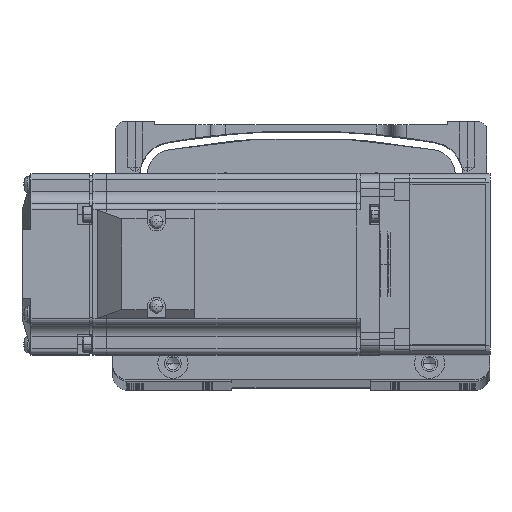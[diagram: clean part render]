
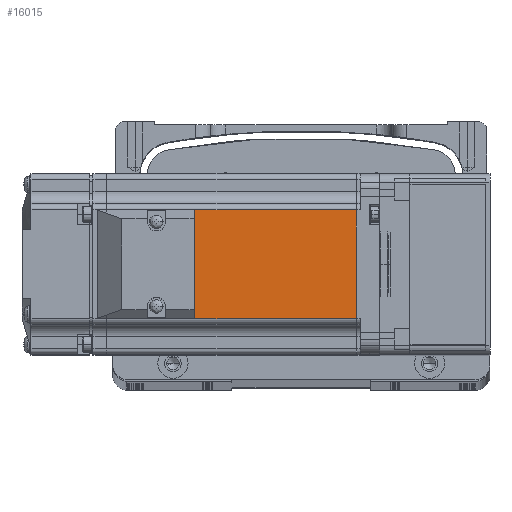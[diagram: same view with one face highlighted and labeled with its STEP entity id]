
A CAD part, top view. The second image highlights one B-rep face of the part: STEP entity #16015.
In plain terms, the highlighted planar face has unit normal (0, 0, 1) as drawn and (0, 1, 0) by its records, which use the part's own axes.
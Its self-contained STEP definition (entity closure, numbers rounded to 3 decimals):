
#335 = PLANE ( 'NONE',  #20621 ) ;
#621 = DIRECTION ( 'NONE',  ( 0., 0., 1. ) ) ;
#9788 = EDGE_CURVE ( 'NONE', #80756, #51555, #56795, .T. ) ;
#14954 = DIRECTION ( 'NONE',  ( 0., 0., 1. ) ) ;
#15821 = FACE_OUTER_BOUND ( 'NONE', #30516, .T. ) ;
#16015 = ADVANCED_FACE ( 'NONE', ( #15821 ), #335, .T. ) ;
#18471 = ORIENTED_EDGE ( 'NONE', *, *, #82268, .T. ) ;
#18538 = DIRECTION ( 'NONE',  ( 1., 0., 0. ) ) ;
#20621 = AXIS2_PLACEMENT_3D ( 'NONE', #81254, #40855, #621 ) ;
#21502 = CARTESIAN_POINT ( 'NONE',  ( -7.75, 30., -18. ) ) ;
#29873 = LINE ( 'NONE', #72761, #49892 ) ;
#30516 = EDGE_LOOP ( 'NONE', ( #69808, #18471, #70403, #85418 ) ) ;
#30607 = CARTESIAN_POINT ( 'NONE',  ( -90.45, 30., -18. ) ) ;
#33028 = CARTESIAN_POINT ( 'NONE',  ( -6.5, 30., -18. ) ) ;
#34376 = EDGE_CURVE ( 'NONE', #45331, #51555, #29873, .T. ) ;
#40855 = DIRECTION ( 'NONE',  ( 0., 1., 0. ) ) ;
#40961 = CARTESIAN_POINT ( 'NONE',  ( -7.75, 30., 18. ) ) ;
#44759 = CARTESIAN_POINT ( 'NONE',  ( -7.75, 30., 0. ) ) ;
#45331 = VERTEX_POINT ( 'NONE', #54438 ) ;
#46551 = DIRECTION ( 'NONE',  ( -1., 0., 0. ) ) ;
#49038 = LINE ( 'NONE', #55268, #84913 ) ;
#49159 = LINE ( 'NONE', #33028, #82905 ) ;
#49892 = VECTOR ( 'NONE', #18538, 1000. ) ;
#51555 = VERTEX_POINT ( 'NONE', #40961 ) ;
#54438 = CARTESIAN_POINT ( 'NONE',  ( -90.45, 30., 18. ) ) ;
#55268 = CARTESIAN_POINT ( 'NONE',  ( -90.45, 30., 0. ) ) ;
#56795 = LINE ( 'NONE', #44759, #61001 ) ;
#59429 = EDGE_CURVE ( 'NONE', #73464, #45331, #49038, .T. ) ;
#61001 = VECTOR ( 'NONE', #85163, 1000. ) ;
#69808 = ORIENTED_EDGE ( 'NONE', *, *, #9788, .F. ) ;
#70403 = ORIENTED_EDGE ( 'NONE', *, *, #59429, .T. ) ;
#72761 = CARTESIAN_POINT ( 'NONE',  ( -6.5, 30., 18. ) ) ;
#73464 = VERTEX_POINT ( 'NONE', #30607 ) ;
#80756 = VERTEX_POINT ( 'NONE', #21502 ) ;
#81254 = CARTESIAN_POINT ( 'NONE',  ( -6.5, 30., 25. ) ) ;
#82268 = EDGE_CURVE ( 'NONE', #80756, #73464, #49159, .T. ) ;
#82905 = VECTOR ( 'NONE', #46551, 1000. ) ;
#84913 = VECTOR ( 'NONE', #14954, 1000. ) ;
#85163 = DIRECTION ( 'NONE',  ( 0., 0., 1. ) ) ;
#85418 = ORIENTED_EDGE ( 'NONE', *, *, #34376, .T. ) ;
